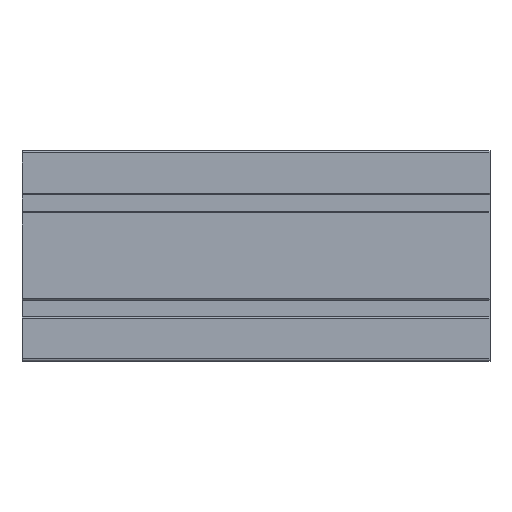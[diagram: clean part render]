
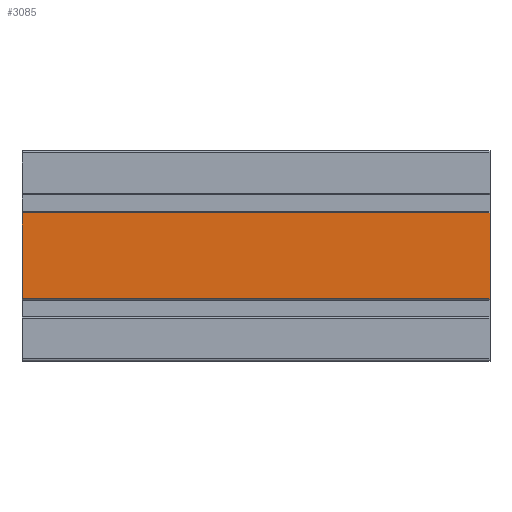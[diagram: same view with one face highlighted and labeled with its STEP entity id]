
A CAD part, top view. The second image highlights one B-rep face of the part: STEP entity #3085.
In plain terms, the highlighted planar face has unit normal (0, 0, 1).
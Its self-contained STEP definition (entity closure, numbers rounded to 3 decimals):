
#393 = CARTESIAN_POINT ( 'NONE',  ( 200., 63.35, 0. ) ) ;
#463 = CARTESIAN_POINT ( 'NONE',  ( 200., 63.35, 0. ) ) ;
#542 = CARTESIAN_POINT ( 'NONE',  ( 200., 26.65, 0. ) ) ;
#839 = DIRECTION ( 'NONE',  ( 0., 1., 0. ) ) ;
#873 = VECTOR ( 'NONE', #3232, 1000. ) ;
#1208 = LINE ( 'NONE', #393, #1841 ) ;
#1280 = CARTESIAN_POINT ( 'NONE',  ( 0., 26.65, 0. ) ) ;
#1301 = CARTESIAN_POINT ( 'NONE',  ( 200., 26.65, 0. ) ) ;
#1555 = DIRECTION ( 'NONE',  ( 0., -1., 0. ) ) ;
#1605 = ORIENTED_EDGE ( 'NONE', *, *, #2962, .F. ) ;
#1695 = LINE ( 'NONE', #4035, #4382 ) ;
#1841 = VECTOR ( 'NONE', #2820, 1000. ) ;
#2068 = ORIENTED_EDGE ( 'NONE', *, *, #3830, .F. ) ;
#2109 = DIRECTION ( 'NONE',  ( 1., 0., 0. ) ) ;
#2235 = VERTEX_POINT ( 'NONE', #542 ) ;
#2444 = AXIS2_PLACEMENT_3D ( 'NONE', #1301, #3655, #839 ) ;
#2820 = DIRECTION ( 'NONE',  ( 1., 0., 0. ) ) ;
#2962 = EDGE_CURVE ( 'NONE', #4230, #2235, #4283, .T. ) ;
#2969 = EDGE_LOOP ( 'NONE', ( #2975, #1605, #2068, #3290 ) ) ;
#2975 = ORIENTED_EDGE ( 'NONE', *, *, #3547, .T. ) ;
#3085 = ADVANCED_FACE ( 'NONE', ( #4847 ), #4385, .F. ) ;
#3232 = DIRECTION ( 'NONE',  ( 0., -1., 0. ) ) ;
#3265 = CARTESIAN_POINT ( 'NONE',  ( 0., 63.35, 0. ) ) ;
#3290 = ORIENTED_EDGE ( 'NONE', *, *, #4316, .T. ) ;
#3504 = CARTESIAN_POINT ( 'NONE',  ( 200., 45., 0. ) ) ;
#3508 = VERTEX_POINT ( 'NONE', #3265 ) ;
#3547 = EDGE_CURVE ( 'NONE', #5027, #2235, #1695, .T. ) ;
#3655 = DIRECTION ( 'NONE',  ( 0., 0., -1. ) ) ;
#3830 = EDGE_CURVE ( 'NONE', #3508, #4230, #1208, .T. ) ;
#4035 = CARTESIAN_POINT ( 'NONE',  ( 200., 26.65, 0. ) ) ;
#4099 = VECTOR ( 'NONE', #1555, 1000. ) ;
#4230 = VERTEX_POINT ( 'NONE', #463 ) ;
#4283 = LINE ( 'NONE', #3504, #4099 ) ;
#4316 = EDGE_CURVE ( 'NONE', #3508, #5027, #4875, .T. ) ;
#4382 = VECTOR ( 'NONE', #2109, 1000. ) ;
#4385 = PLANE ( 'NONE',  #2444 ) ;
#4847 = FACE_OUTER_BOUND ( 'NONE', #2969, .T. ) ;
#4875 = LINE ( 'NONE', #1280, #873 ) ;
#4896 = CARTESIAN_POINT ( 'NONE',  ( 0., 26.65, 0. ) ) ;
#5027 = VERTEX_POINT ( 'NONE', #4896 ) ;
